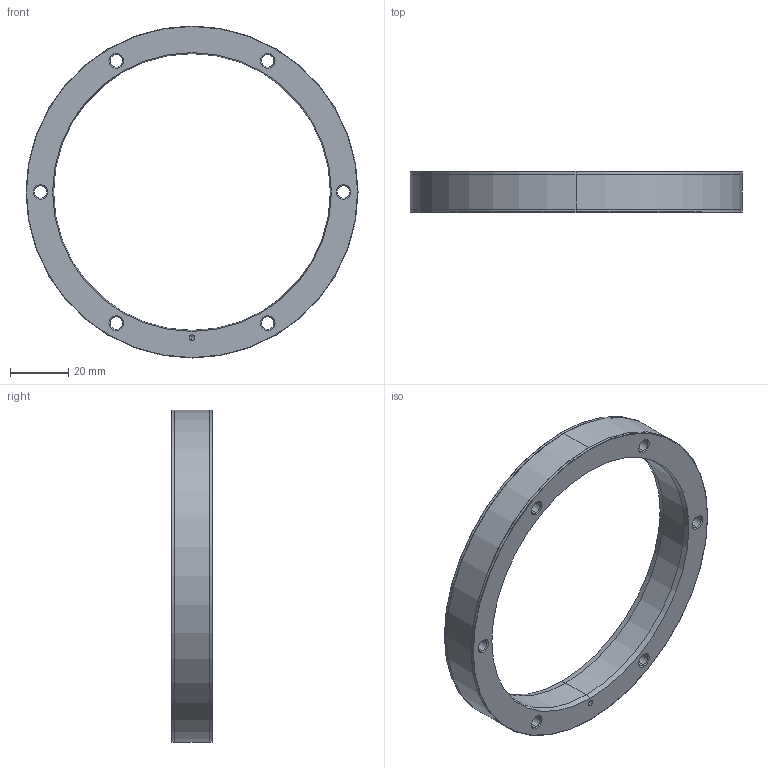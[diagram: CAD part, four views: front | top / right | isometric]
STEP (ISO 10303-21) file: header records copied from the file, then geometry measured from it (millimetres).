
FILE_DESCRIPTION (( 'STEP AP214' ), '1' );
FILE_NAME ('SAR114_exposed.STEP', '2024-02-02T10:19:28', ( '' ), ( '' ), 'SwSTEP 2.0', 'SolidWorks 2022', '' );
FILE_SCHEMA (( 'AUTOMOTIVE_DESIGN' ));
Length unit declared in the file: millimetre
Products named in the file (1): SAR114_exposed
Bounding box: 114 x 14 x 114 mm (x, y, z)
Volume: 42187.3 mm3; surface area: 16373.4 mm2
Topology: 1 solids, 1 shells, 823 faces, 2228 edges, 1470 vertices
Faces by surface type: plane 650, bspline 86, cylinder 47, cone 32, torus 8
Entity records: 29590 total; most frequent: CARTESIAN_POINT 9232, ORIENTED_EDGE 4448, DIRECTION 3666, EDGE_CURVE 2224, LINE 1914, VECTOR 1914, VERTEX_POINT 1470, EDGE_LOOP 904
